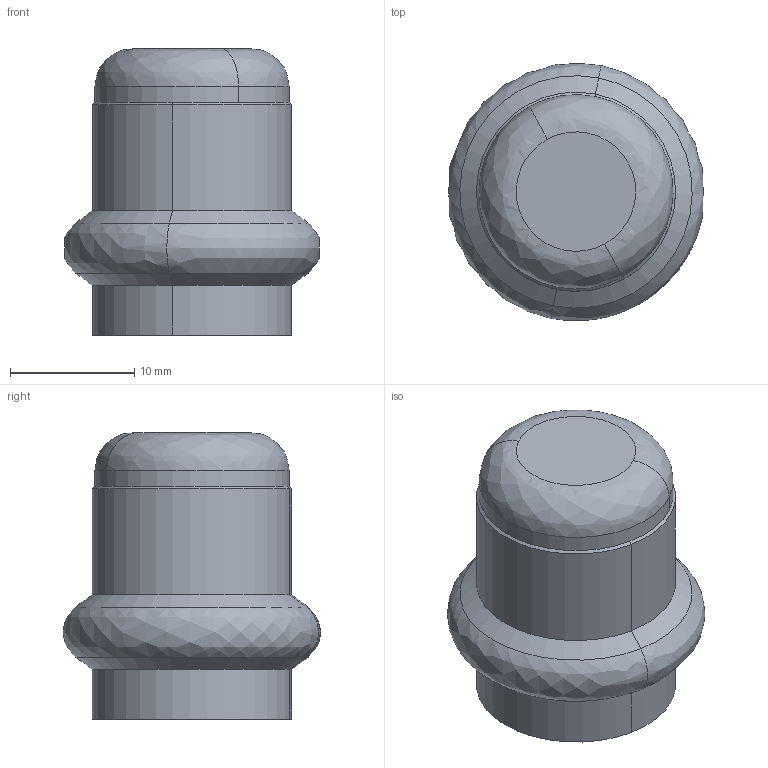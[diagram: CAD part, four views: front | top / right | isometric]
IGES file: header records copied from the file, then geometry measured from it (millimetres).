
Start section: 3D InterOp IGES (Version 26 1 0), Spatial Corp. Copyright (c) 1999-2007.
Global section: file name: pim0004606.igs; native system: Spatial Corp.; preprocessor: 3D InterOp ACIS/IGES; author: cad-pim; organization: TransMagic, Inc.; date: 20170510.083834; units: millimetre
Bounding box: 20.42 x 20.69 x 23 mm (x, y, z)
Volume: 2786.8 mm3; surface area: 2365.3 mm2
Topology: 1 solids, 1 shells, 21 faces, 42 edges, 24 vertices
Faces by surface type: bspline 21
